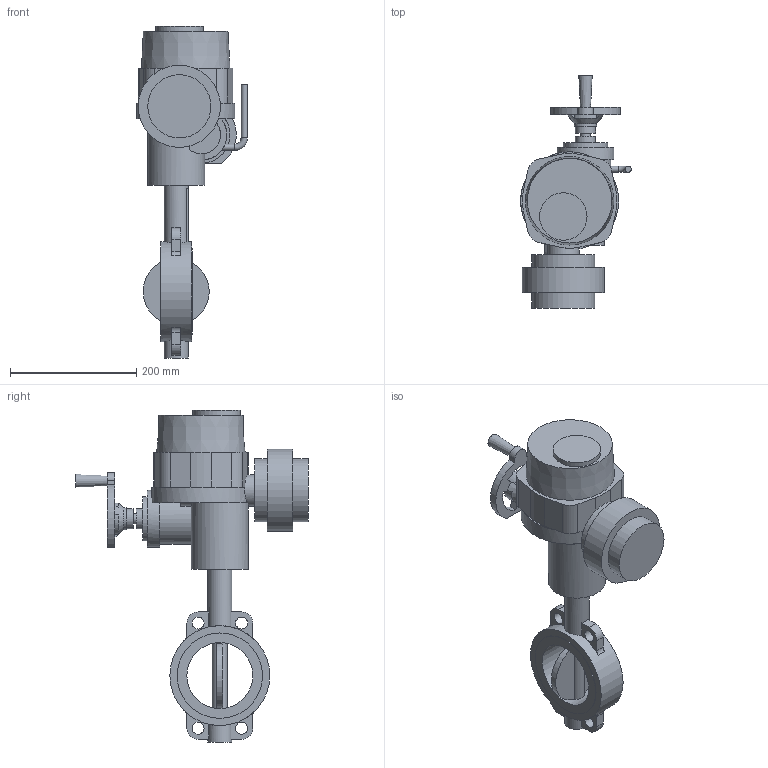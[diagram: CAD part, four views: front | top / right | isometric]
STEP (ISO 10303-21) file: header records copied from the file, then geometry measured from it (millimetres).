
FILE_DESCRIPTION(('STEP AP203'), '1');
FILE_NAME('Çàòâîð 017W.Z(ñòàëü) DN100+ÝÏ QT.A008', '', ('UNSPECIFIED'), ('UNSPECIFIED'), 'ASCON STEP Converter 1.6', 'ASCON Math Kernel', '');
FILE_SCHEMA(('CONFIG_CONTROL_DESIGN'));
Length unit declared in the file: millimetre
Bounding box: 175 x 368 x 525 mm (x, y, z)
Volume: 5477549.6 mm3; surface area: 353975.5 mm2
Topology: 1 solids, 1 shells, 691 faces, 1925 edges, 1279 vertices
Faces by surface type: cylinder 449, plane 238, cone 3, torus 1
Full cylindrical faces by diameter (mm): 6.7 x4, 10 x6, 16 x1, 19 x4, 24 x1, 32 x2, 35 x1, 38 x2, 50 x1, 70 x1, 75 x1, 90 x2, 100 x2, 104.4 x1, 130 x1, 135 x2, 158 x1
Entity records: 29146 total; most frequent: CARTESIAN_POINT 5056, DIRECTION 4179, ORIENTED_EDGE 3776, EDGE_CURVE 1888, AXIS2_PLACEMENT_3D 1624, VERTEX_POINT 1279, CIRCLE 932, LINE 931
